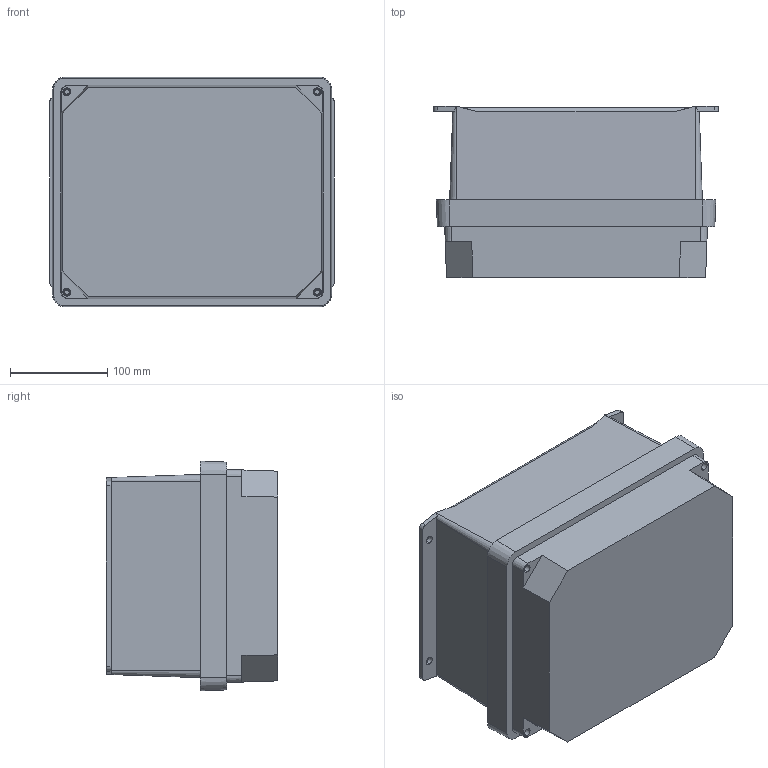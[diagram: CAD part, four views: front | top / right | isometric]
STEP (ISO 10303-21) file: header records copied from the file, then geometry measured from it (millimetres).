
FILE_DESCRIPTION (( 'STEP AP203' ), '1' );
FILE_NAME ('rhj1008wlg.STEP', '2013-09-04T15:32:53', ( 'User' ), ( 'Pentair Inc' ), 'SwSTEP 2.0', 'SolidWorks 2010', '' );
FILE_SCHEMA (( 'CONFIG_CONTROL_DESIGN' ));
Length unit declared in the file: millimetre
Products named in the file (5): SetScr1032x50_12; Cover_RHJ_10x8_RHJ_3; WmtBodyRHJ_10x8x4.59_nohinge_nolatch; Body_RHJ_10x8x4.59_4; rhj1008wlg
Assembly tree (11 placements, depth 3):
  rhj1008wlg
    WmtBodyRHJ_10x8x4.59_nohinge_nolatch
      SetScr1032x50_12  x8
      Body_RHJ_10x8x4.59_4
    Cover_RHJ_10x8_RHJ_3
Bounding box: 292.35 x 176.02 x 236.09 mm (x, y, z)
Volume: 1200370.5 mm3; surface area: 621188.8 mm2
Topology: 10 solids, 10 shells, 812 faces, 2049 edges, 1286 vertices
Faces by surface type: cone 367, cylinder 230, plane 183, bspline 32
Entity records: 11248 total; most frequent: CARTESIAN_POINT 2269, DIRECTION 1765, ORIENTED_EDGE 1718, EDGE_CURVE 859, AXIS2_PLACEMENT_3D 620, VERTEX_POINT 544, VECTOR 525, LINE 525
